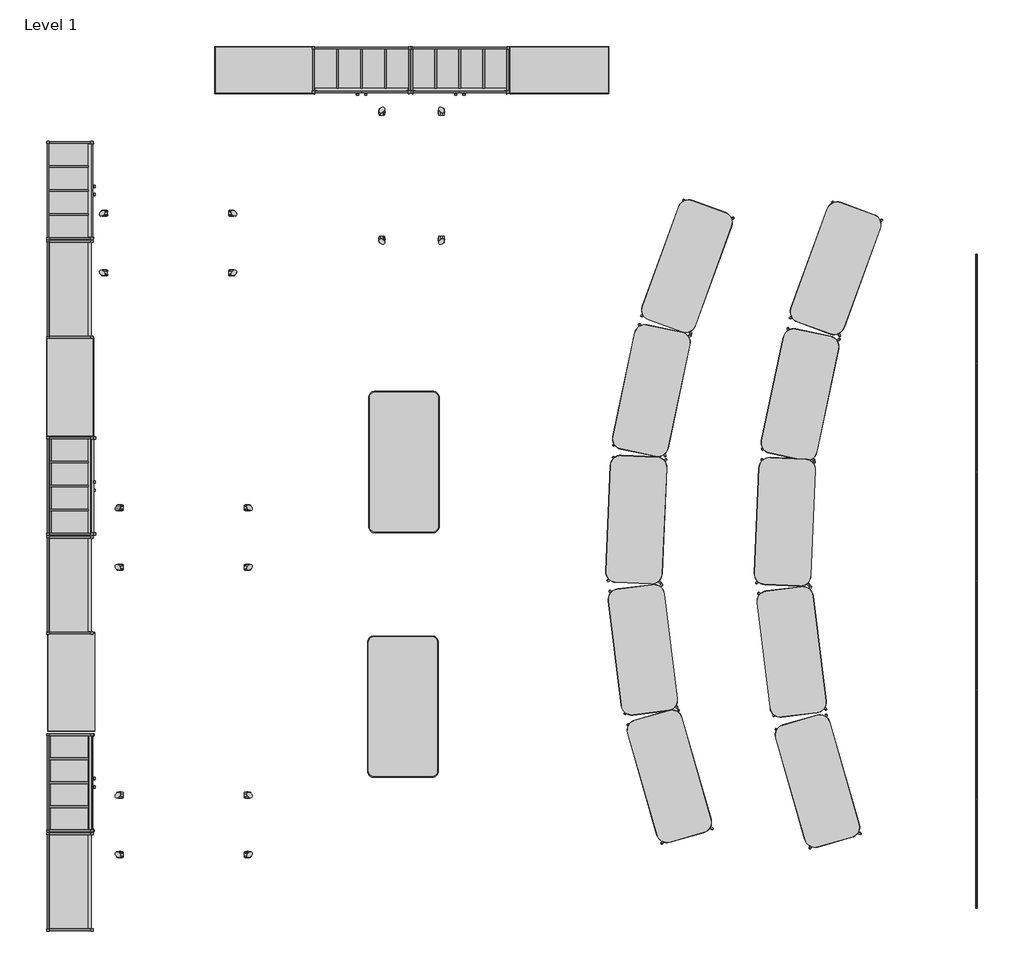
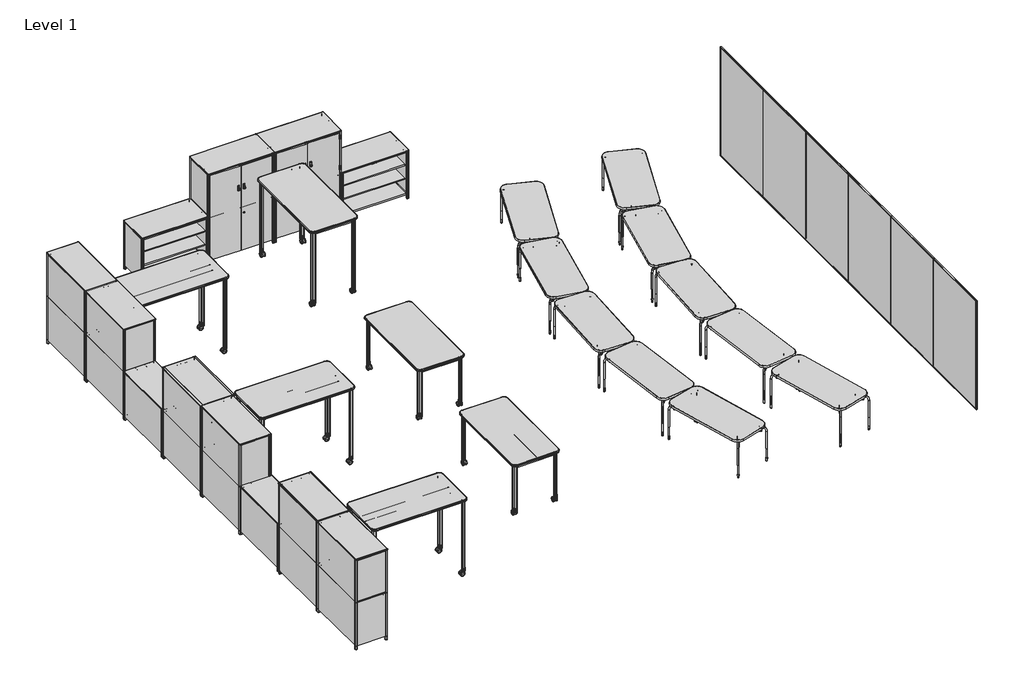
# One storey, incomplete: 116 furniture elements.
"""IFC4 building model written with IfcOpenShell, lengths in millimetres."""

from ifc_helpers import new_model, si_unit, origin, place, context, project, spatial, transform, mapped, element, save
from components import furniture_4c59b52d, furniture_afb029f8, furniture_cb7575b0, furniture_b4e8a946, furniture_8203fddc, furniture_dcc7bf50, furniture_9f49ae1a, furniture_f3f6e3e6, furniture_67cf47fb, furniture_397f0a86, furniture_30_x_60_af1b8cdd, furniture_30_x_60_d453b8d4, furniture_30_x_60_6667bd11, furniture_30_x_60_b2621e60, furniture_30_x_60_e347a391, furniture_30_x_60_a9b783f6, furniture_30_x_60_d7a7b847, furniture_30_x_60_ff9c13ed, furniture_30_x_60_9882679b, glide_271f9d47, glide_2aabda07, legs_a3c12fd3, legs_1ce2ac0b, polyvision_accessory_board_flow_vertical_5f54c6b5, polyvision_accessory_board_flow_vertical_01536e87, polyvision_accessory_board_flow_vertical_d371d4c1, with_shelves_f9349fdc, with_shelves_608da45c

model = new_model("IFC4")

# Units and contexts
model_context = context("Model", 3, world=origin())
ifc_project = project(units=[si_unit("LENGTHUNIT", "METRE", prefix="MILLI")], contexts=[model_context])

# Site, building, storey
site = spatial("IfcSite", under=ifc_project)
building = spatial("IfcBuilding", under=site)
storey = spatial("IfcBuildingStorey", under=building, Name="Level 1", Elevation=0.0)

# Furniture
placement = place(None, origin())
furniture_shape = furniture_4c59b52d(model_context)
element("IfcFurniture", 1, ObjectType="SmithSystem_AM_Desking_HeightAdjustable_Numbers_TwoStudent_Rectangle : 24″ x 54″", at=placement, inside=storey, context=model_context, shape_type="MappedRepresentation", body=[
    mapped(furniture_shape, transform((-64587.4203713, -18837.2373983, 0.0), x_axis=(-0.2756373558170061, 0.9612616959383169, 0.0), y_axis=(-0.9612616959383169, -0.2756373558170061, 0.0), z_axis=(0.0, 0.0, 1.0))),
])
element("IfcFurniture", 2, ObjectType="SmithSystem_AM_Desking_HeightAdjustable_Numbers_TwoStudent_Rectangle : 24″ x 54″", at=placement, inside=storey, context=model_context, shape_type="MappedRepresentation", body=[
    mapped(furniture_shape, transform((-65174.4982888, -15997.044759, 0.0), x_axis=(0.04318540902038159, 0.9990670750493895, 0.0), y_axis=(-0.9990670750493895, 0.04318540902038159, 0.0), z_axis=(0.0, 0.0, 1.0))),
])
element("IfcFurniture", 3, ObjectType="SmithSystem_AM_Desking_HeightAdjustable_Numbers_TwoStudent_Rectangle : 24″ x 54″", at=placement, inside=storey, context=model_context, shape_type="MappedRepresentation", body=[
    mapped(furniture_shape, transform((-64814.2098079, -13131.0771477, 0.0), x_axis=(0.34202014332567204, 0.9396926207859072, 0.0), y_axis=(-0.9396926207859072, 0.34202014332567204, 0.0), z_axis=(0.0, 0.0, 1.0))),
])
element("IfcFurniture", 4, ObjectType="SmithSystem_AM_Desking_HeightAdjustable_Numbers_TwoStudent_Rectangle : 24″ x 54″", at=placement, inside=storey, context=model_context, shape_type="MappedRepresentation", body=[
    mapped(furniture_shape, transform((-62990.1337953, -18888.9656072, 0.0), x_axis=(-0.2756373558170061, 0.9612616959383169, 0.0), y_axis=(-0.9612616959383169, -0.2756373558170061, 0.0), z_axis=(0.0, 0.0, 1.0))),
])
element("IfcFurniture", 5, ObjectType="SmithSystem_AM_Desking_HeightAdjustable_Numbers_TwoStudent_Rectangle : 24″ x 54″", at=placement, inside=storey, context=model_context, shape_type="MappedRepresentation", body=[
    mapped(furniture_shape, transform((-63570.9344481, -16020.18866, 0.0), x_axis=(0.04318540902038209, 0.9990670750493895, 0.0), y_axis=(-0.9990670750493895, 0.04318540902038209, 0.0), z_axis=(0.0, 0.0, 1.0))),
])
element("IfcFurniture", 6, ObjectType="SmithSystem_AM_Desking_HeightAdjustable_Numbers_TwoStudent_Rectangle : 24″ x 54″", at=placement, inside=storey, context=model_context, shape_type="MappedRepresentation", body=[
    mapped(furniture_shape, transform((-63210.7181849, -13153.3759359, 0.0), x_axis=(0.34202014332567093, 0.9396926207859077, 0.0), y_axis=(-0.9396926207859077, 0.34202014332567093, 0.0), z_axis=(0.0, 0.0, 1.0))),
])
furniture_2_shape = furniture_afb029f8(model_context)
element("IfcFurniture", 7, ObjectType="SmithSystem_AM_Desking_HeightAdjustable_Numbers_TwoStudent_Rectangle : 24″ x 54″", at=placement, inside=storey, context=model_context, shape_type="MappedRepresentation", body=[
    mapped(furniture_2_shape, transform((-65155.6656258, -16085.4348957, 0.0), x_axis=(0.12186934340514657, -0.9925461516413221, 0.0), y_axis=(0.9925461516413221, 0.12186934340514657, 0.0), z_axis=(0.0, 0.0, 1.0))),
])
element("IfcFurniture", 8, ObjectType="SmithSystem_AM_Desking_HeightAdjustable_Numbers_TwoStudent_Rectangle : 24″ x 54″", at=placement, inside=storey, context=model_context, shape_type="MappedRepresentation", body=[
    mapped(furniture_2_shape, transform((-64833.7138566, -13199.2334427, 0.0), x_axis=(-0.2068649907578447, -0.9783694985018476, 0.0), y_axis=(0.9783694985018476, -0.2068649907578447, 0.0), z_axis=(0.0, 0.0, 1.0))),
])
element("IfcFurniture", 9, ObjectType="SmithSystem_AM_Desking_HeightAdjustable_Numbers_TwoStudent_Rectangle : 24″ x 54″", at=placement, inside=storey, context=model_context, shape_type="MappedRepresentation", body=[
    mapped(furniture_2_shape, transform((-63550.9454867, -16108.8606283, 0.0), x_axis=(0.12186934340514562, -0.9925461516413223, 0.0), y_axis=(0.9925461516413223, 0.12186934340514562, 0.0), z_axis=(0.0, 0.0, 1.0))),
])
element("IfcFurniture", 10, ObjectType="SmithSystem_AM_Desking_HeightAdjustable_Numbers_TwoStudent_Rectangle : 24″ x 54″", at=placement, inside=storey, context=model_context, shape_type="MappedRepresentation", body=[
    mapped(furniture_2_shape, transform((-63229.4027669, -13243.3799292, 0.0), x_axis=(-0.20686499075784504, -0.9783694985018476, 0.0), y_axis=(0.9783694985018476, -0.20686499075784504, 0.0), z_axis=(0.0, 0.0, 1.0))),
])
furniture_3_shape = furniture_cb7575b0(model_context)
furniture_4_shape = furniture_b4e8a946(model_context)
furniture_5_shape = furniture_8203fddc(model_context)
element("IfcFurniture", 11, ObjectType="SmithSystem_AM_Storage_Education_Constellate_Stacking_DoubleMidCluster : Upper Cubbies + Lower Cubbies", at=placement, inside=storey, context=model_context, shape_type="MappedRepresentation", body=[
    mapped(furniture_3_shape, transform((-66743.5566691, -10475.9766062, 0.0), x_axis=(1.0, 0.0, 0.0), y_axis=(0.0, 1.0, 0.0), z_axis=(0.0, 0.0, 1.0))),
    mapped(furniture_4_shape, transform((-66743.5566691, -10475.9766062, 0.0), x_axis=(1.0, 0.0, 0.0), y_axis=(0.0, 1.0, 0.0), z_axis=(0.0, 0.0, 1.0))),
    mapped(furniture_5_shape, transform((-66743.5566691, -10475.9766062, 0.0), x_axis=(1.0, 0.0, 0.0), y_axis=(0.0, 1.0, 0.0), z_axis=(0.0, 0.0, 1.0))),
])
element("IfcFurniture", 12, ObjectType="SmithSystem_AM_Storage_Education_Constellate_Stacking_DoubleMidCluster : Upper Cubbies + Lower Cubbies", at=placement, inside=storey, context=model_context, shape_type="MappedRepresentation", body=[
    mapped(furniture_3_shape, transform((-67803.5639286, -10475.9766062, 0.0), x_axis=(1.0, 0.0, 0.0), y_axis=(0.0, 1.0, 0.0), z_axis=(0.0, 0.0, 1.0))),
    mapped(furniture_4_shape, transform((-67803.5639286, -10475.9766062, 0.0), x_axis=(1.0, 0.0, 0.0), y_axis=(0.0, 1.0, 0.0), z_axis=(0.0, 0.0, 1.0))),
    mapped(furniture_5_shape, transform((-67803.5639286, -10475.9766062, 0.0), x_axis=(1.0, 0.0, 0.0), y_axis=(0.0, 1.0, 0.0), z_axis=(0.0, 0.0, 1.0))),
])
furniture_6_shape = furniture_dcc7bf50(model_context)
furniture_7_shape = furniture_9f49ae1a(model_context)
element("IfcFurniture", 13, ObjectType="SmithSystem_AM_Storage_Education_Constellate_Stacking_DoubleMidCluster : Upper Shelves + Lower Cubbies", at=placement, inside=storey, context=model_context, shape_type="MappedRepresentation", body=[
    mapped(furniture_6_shape, transform((-70947.7663273, -12840.3664028, 0.0), x_axis=(0.0, 1.0, 0.0), y_axis=(-1.0, 0.0, 0.0), z_axis=(0.0, 0.0, 1.0))),
    mapped(furniture_7_shape, transform((-70947.7663273, -12840.3664028, 0.0), x_axis=(0.0, 1.0, 0.0), y_axis=(-1.0, 0.0, 0.0), z_axis=(0.0, 0.0, 1.0))),
])
element("IfcFurniture", 14, ObjectType="SmithSystem_AM_Storage_Education_Constellate_Stacking_DoubleMidCluster : Upper Shelves + Lower Cubbies", at=placement, inside=storey, context=model_context, shape_type="MappedRepresentation", body=[
    mapped(furniture_6_shape, transform((-70920.1972134, -14963.1977184, 0.0), x_axis=(0.0, 1.0, 0.0), y_axis=(-1.0, 0.0, 0.0), z_axis=(0.0, 0.0, 1.0))),
    mapped(furniture_7_shape, transform((-70920.1972134, -14963.1977184, 0.0), x_axis=(0.0, 1.0, 0.0), y_axis=(-1.0, 0.0, 0.0), z_axis=(0.0, 0.0, 1.0))),
])
element("IfcFurniture", 15, ObjectType="SmithSystem_AM_Storage_Education_Constellate_Stacking_DoubleMidCluster : Upper Shelves + Lower Cubbies", at=placement, inside=storey, context=model_context, shape_type="MappedRepresentation", body=[
    mapped(furniture_6_shape, transform((-70935.5896199, -18163.5977184, 0.0), x_axis=(0.0, 1.0, 0.0), y_axis=(-1.0, 0.0, 0.0), z_axis=(0.0, 0.0, 1.0))),
    mapped(furniture_7_shape, transform((-70935.5896199, -18163.5977184, 0.0), x_axis=(0.0, 1.0, 0.0), y_axis=(-1.0, 0.0, 0.0), z_axis=(0.0, 0.0, 1.0))),
])
element("IfcFurniture", 16, ObjectType="SmithSystem_AM_Storage_Education_Constellate_Stacking_DoubleMidCluster : Upper Shelves + Lower Cubbies", at=placement, inside=storey, context=model_context, shape_type="MappedRepresentation", body=[
    mapped(furniture_6_shape, transform((-70947.7663273, -16031.7952256, 0.0), x_axis=(0.0, 1.0, 0.0), y_axis=(-1.0, 0.0, 0.0), z_axis=(0.0, 0.0, 1.0))),
    mapped(furniture_7_shape, transform((-70947.7663273, -16031.7952256, 0.0), x_axis=(0.0, 1.0, 0.0), y_axis=(-1.0, 0.0, 0.0), z_axis=(0.0, 0.0, 1.0))),
])
element("IfcFurniture", 17, ObjectType="SmithSystem_AM_Storage_Education_Constellate_Stacking_DoubleMidCluster : Upper Shelves + Lower Cubbies", at=placement, inside=storey, context=model_context, shape_type="MappedRepresentation", body=[
    mapped(furniture_6_shape, transform((-70947.7663273, -19232.1952256, 0.0), x_axis=(0.0, 1.0, 0.0), y_axis=(-1.0, 0.0, 0.0), z_axis=(0.0, 0.0, 1.0))),
    mapped(furniture_7_shape, transform((-70947.7663273, -19232.1952256, 0.0), x_axis=(0.0, 1.0, 0.0), y_axis=(-1.0, 0.0, 0.0), z_axis=(0.0, 0.0, 1.0))),
])
furniture_8_shape = furniture_f3f6e3e6(model_context)
furniture_9_shape = furniture_67cf47fb(model_context)
furniture_10_shape = furniture_397f0a86(model_context)
element("IfcFurniture", 18, ObjectType="SmithSystem_AM_Storage_Education_Constellate_Stacking_DoubleMidCluster : Upper Cubbies + Lower Cubbies", at=placement, inside=storey, context=model_context, shape_type="MappedRepresentation", body=[
    mapped(furniture_8_shape, transform((-70947.7663273, -11774.8168957, 0.0), x_axis=(0.0, 1.0, 0.0), y_axis=(-1.0, 0.0, 0.0), z_axis=(0.0, 0.0, 1.0))),
    mapped(furniture_9_shape, transform((-70947.7663273, -11774.8168957, 0.0), x_axis=(0.0, 1.0, 0.0), y_axis=(-1.0, 0.0, 0.0), z_axis=(0.0, 0.0, 1.0))),
    mapped(furniture_10_shape, transform((-70947.7663273, -11774.8168957, 0.0), x_axis=(0.0, 1.0, 0.0), y_axis=(-1.0, 0.0, 0.0), z_axis=(0.0, 0.0, 1.0))),
])
element("IfcFurniture", 19, ObjectType="SmithSystem_AM_Storage_Education_Constellate_Stacking_DoubleMidCluster : Upper Cubbies + Lower Cubbies", at=placement, inside=storey, context=model_context, shape_type="MappedRepresentation", body=[
    mapped(furniture_8_shape, transform((-70947.7663273, -14963.1977184, 0.0), x_axis=(0.0, 1.0, 0.0), y_axis=(-1.0, 0.0, 0.0), z_axis=(0.0, 0.0, 1.0))),
    mapped(furniture_9_shape, transform((-70947.7663273, -14963.1977184, 0.0), x_axis=(0.0, 1.0, 0.0), y_axis=(-1.0, 0.0, 0.0), z_axis=(0.0, 0.0, 1.0))),
    mapped(furniture_10_shape, transform((-70947.7663273, -14963.1977184, 0.0), x_axis=(0.0, 1.0, 0.0), y_axis=(-1.0, 0.0, 0.0), z_axis=(0.0, 0.0, 1.0))),
])
element("IfcFurniture", 20, ObjectType="SmithSystem_AM_Storage_Education_Constellate_Stacking_DoubleMidCluster : Upper Cubbies + Lower Cubbies", at=placement, inside=storey, context=model_context, shape_type="MappedRepresentation", body=[
    mapped(furniture_8_shape, transform((-70947.7663273, -18163.5977184, 0.0), x_axis=(0.0, 1.0, 0.0), y_axis=(-1.0, 0.0, 0.0), z_axis=(0.0, 0.0, 1.0))),
    mapped(furniture_9_shape, transform((-70947.7663273, -18163.5977184, 0.0), x_axis=(0.0, 1.0, 0.0), y_axis=(-1.0, 0.0, 0.0), z_axis=(0.0, 0.0, 1.0))),
    mapped(furniture_10_shape, transform((-70947.7663273, -18163.5977184, 0.0), x_axis=(0.0, 1.0, 0.0), y_axis=(-1.0, 0.0, 0.0), z_axis=(0.0, 0.0, 1.0))),
])
furniture_30_x_60_shape = furniture_30_x_60_af1b8cdd(model_context)
furniture_30_x_60_2_shape = furniture_30_x_60_d453b8d4(model_context)
furniture_30_x_60_3_shape = furniture_30_x_60_6667bd11(model_context)
element("IfcFurniture", 21, ObjectType="SmithSystem_AM_Desking_Education_Interchange_Student_Activity : 30 x 60", at=placement, inside=storey, context=model_context, shape_type="MappedRepresentation", body=[
    mapped(furniture_30_x_60_shape, transform((-66976.4716781, -18104.614247, 0.0), x_axis=(0.0, 1.0, 0.0), y_axis=(-1.0, 0.0, 0.0), z_axis=(0.0, 0.0, 1.0))),
    mapped(furniture_30_x_60_2_shape, transform((-66976.4716781, -18104.614247, 0.0), x_axis=(0.0, 1.0, 0.0), y_axis=(-1.0, 0.0, 0.0), z_axis=(0.0, 0.0, 1.0))),
    mapped(furniture_30_x_60_3_shape, transform((-66976.4716781, -18104.614247, 0.0), x_axis=(0.0, 1.0, 0.0), y_axis=(-1.0, 0.0, 0.0), z_axis=(0.0, 0.0, 1.0))),
])
furniture_30_x_60_4_shape = furniture_30_x_60_b2621e60(model_context)
furniture_30_x_60_5_shape = furniture_30_x_60_e347a391(model_context)
furniture_30_x_60_6_shape = furniture_30_x_60_a9b783f6(model_context)
element("IfcFurniture", 22, ObjectType="SmithSystem_AM_Desking_Education_Interchange_Student_Activity : 30 x 60", at=placement, inside=storey, context=model_context, shape_type="MappedRepresentation", body=[
    mapped(furniture_30_x_60_4_shape, transform((-66965.9842108, -13941.7920666, 0.0), x_axis=(0.0, -1.0, 0.0), y_axis=(1.0, 0.0, 0.0), z_axis=(0.0, 0.0, 1.0))),
    mapped(furniture_30_x_60_5_shape, transform((-66965.9842108, -13941.7920666, 0.0), x_axis=(0.0, -1.0, 0.0), y_axis=(1.0, 0.0, 0.0), z_axis=(0.0, 0.0, 1.0))),
    mapped(furniture_30_x_60_6_shape, transform((-66965.9842108, -13941.7920666, 0.0), x_axis=(0.0, -1.0, 0.0), y_axis=(1.0, 0.0, 0.0), z_axis=(0.0, 0.0, 1.0))),
])
furniture_30_x_60_7_shape = furniture_30_x_60_d7a7b847(model_context)
furniture_30_x_60_8_shape = furniture_30_x_60_ff9c13ed(model_context)
furniture_30_x_60_9_shape = furniture_30_x_60_9882679b(model_context)
element("IfcFurniture", 23, ObjectType="SmithSystem_AM_Desking_Education_Interchange_Student_Activity : 30 x 60", at=placement, inside=storey, context=model_context, shape_type="MappedRepresentation", body=[
    mapped(furniture_30_x_60_7_shape, transform((-66881.7756395, -12377.4201856, 0.0), x_axis=(0.0, 1.0, 0.0), y_axis=(-1.0, 0.0, 0.0), z_axis=(0.0, 0.0, 1.0))),
    mapped(furniture_30_x_60_8_shape, transform((-66881.7756395, -12377.4201856, 0.0), x_axis=(0.0, 1.0, 0.0), y_axis=(-1.0, 0.0, 0.0), z_axis=(0.0, 0.0, 1.0))),
    mapped(furniture_30_x_60_9_shape, transform((-66881.7756395, -12377.4201856, 0.0), x_axis=(0.0, 1.0, 0.0), y_axis=(-1.0, 0.0, 0.0), z_axis=(0.0, 0.0, 1.0))),
])
element("IfcFurniture", 24, ObjectType="SmithSystem_AM_Desking_Education_Interchange_Student_Activity : 30 x 60", at=placement, inside=storey, context=model_context, shape_type="MappedRepresentation", body=[
    mapped(furniture_30_x_60_7_shape, transform((-69129.3532755, -11960.6939298, 0.0), x_axis=(-1.0, 0.0, 0.0), y_axis=(0.0, -1.0, 0.0), z_axis=(0.0, 0.0, 1.0))),
    mapped(furniture_30_x_60_8_shape, transform((-69129.3532755, -11960.6939298, 0.0), x_axis=(-1.0, 0.0, 0.0), y_axis=(0.0, -1.0, 0.0), z_axis=(0.0, 0.0, 1.0))),
    mapped(furniture_30_x_60_9_shape, transform((-69129.3532755, -11960.6939298, 0.0), x_axis=(-1.0, 0.0, 0.0), y_axis=(0.0, -1.0, 0.0), z_axis=(0.0, 0.0, 1.0))),
])
element("IfcFurniture", 25, ObjectType="SmithSystem_AM_Desking_Education_Interchange_Student_Activity : 30 x 60", at=placement, inside=storey, context=model_context, shape_type="MappedRepresentation", body=[
    mapped(furniture_30_x_60_7_shape, transform((-68960.1953392, -15137.6196346, 0.0), x_axis=(-1.0, 0.0, 0.0), y_axis=(0.0, -1.0, 0.0), z_axis=(0.0, 0.0, 1.0))),
    mapped(furniture_30_x_60_8_shape, transform((-68960.1953392, -15137.6196346, 0.0), x_axis=(-1.0, 0.0, 0.0), y_axis=(0.0, -1.0, 0.0), z_axis=(0.0, 0.0, 1.0))),
    mapped(furniture_30_x_60_9_shape, transform((-68960.1953392, -15137.6196346, 0.0), x_axis=(-1.0, 0.0, 0.0), y_axis=(0.0, -1.0, 0.0), z_axis=(0.0, 0.0, 1.0))),
])
element("IfcFurniture", 26, ObjectType="SmithSystem_AM_Desking_Education_Interchange_Student_Activity : 30 x 60", at=placement, inside=storey, context=model_context, shape_type="MappedRepresentation", body=[
    mapped(furniture_30_x_60_7_shape, transform((-68960.1953392, -18236.4196346, 0.0), x_axis=(-1.0, 0.0, 0.0), y_axis=(0.0, -1.0, 0.0), z_axis=(0.0, 0.0, 1.0))),
    mapped(furniture_30_x_60_8_shape, transform((-68960.1953392, -18236.4196346, 0.0), x_axis=(-1.0, 0.0, 0.0), y_axis=(0.0, -1.0, 0.0), z_axis=(0.0, 0.0, 1.0))),
    mapped(furniture_30_x_60_9_shape, transform((-68960.1953392, -18236.4196346, 0.0), x_axis=(-1.0, 0.0, 0.0), y_axis=(0.0, -1.0, 0.0), z_axis=(0.0, 0.0, 1.0))),
])
glide_shape = glide_271f9d47(model_context)
element("IfcFurniture", 27, ObjectType="SmithSystem_AM_Accesory_Numbers_Casters : Glide", at=placement, inside=storey, context=model_context, shape_type="MappedRepresentation", body=[
    mapped(glide_shape, transform((-64560.189677, -18828.0496828, 0.0), x_axis=(-0.9612616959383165, -0.2756373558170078, 0.0), y_axis=(0.2756373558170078, -0.9612616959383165, 0.0), z_axis=(0.0, 0.0, 1.0))),
])
element("IfcFurniture", 28, ObjectType="SmithSystem_AM_Accesory_Numbers_Casters : Glide", at=placement, inside=storey, context=model_context, shape_type="MappedRepresentation", body=[
    mapped(glide_shape, transform((-64389.785166, -17368.1936065, 0.0), x_axis=(0.9612616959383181, 0.2756373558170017, 0.0), y_axis=(-0.2756373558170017, 0.9612616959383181, 0.0), z_axis=(0.0, 0.0, 1.0))),
])
element("IfcFurniture", 29, ObjectType="SmithSystem_AM_Accesory_Numbers_Casters : Glide", at=placement, inside=storey, context=model_context, shape_type="MappedRepresentation", body=[
    mapped(glide_shape, transform((-64961.4703099, -17429.4463792, 0.0), x_axis=(-0.9925461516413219, -0.12186934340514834, 0.0), y_axis=(0.12186934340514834, -0.9925461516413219, 0.0), z_axis=(0.0, 0.0, 1.0))),
])
element("IfcFurniture", 30, ObjectType="SmithSystem_AM_Accesory_Numbers_Casters : Glide", at=placement, inside=storey, context=model_context, shape_type="MappedRepresentation", body=[
    mapped(glide_shape, transform((-64565.8236743, -16014.3473712, 0.0), x_axis=(0.9925461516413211, 0.12186934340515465, 0.0), y_axis=(-0.12186934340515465, 0.9925461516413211, 0.0), z_axis=(0.0, 0.0, 1.0))),
])
element("IfcFurniture", 31, ObjectType="SmithSystem_AM_Accesory_Numbers_Casters : Glide", at=placement, inside=storey, context=model_context, shape_type="MappedRepresentation", body=[
    mapped(glide_shape, transform((-65145.7595065, -15996.9597733, 0.0), x_axis=(-0.9990670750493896, 0.04318540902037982, 0.0), y_axis=(-0.04318540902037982, -0.9990670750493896, 0.0), z_axis=(0.0, 0.0, 1.0))),
])
element("IfcFurniture", 32, ObjectType="SmithSystem_AM_Accesory_Numbers_Casters : Glide", at=placement, inside=storey, context=model_context, shape_type="MappedRepresentation", body=[
    mapped(glide_shape, transform((-64521.5196919, -14666.3425802, 0.0), x_axis=(0.9990670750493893, -0.04318540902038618, 0.0), y_axis=(0.04318540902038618, 0.9990670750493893, 0.0), z_axis=(0.0, 0.0, 1.0))),
])
element("IfcFurniture", 33, ObjectType="SmithSystem_AM_Accesory_Numbers_Casters : Glide", at=placement, inside=storey, context=model_context, shape_type="MappedRepresentation", body=[
    mapped(glide_shape, transform((-65086.2384289, -14533.5160323, 0.0), x_axis=(-0.978369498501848, 0.20686499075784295, 0.0), y_axis=(-0.20686499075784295, -0.978369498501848, 0.0), z_axis=(0.0, 0.0, 1.0))),
])
element("IfcFurniture", 34, ObjectType="SmithSystem_AM_Accesory_Numbers_Casters : Glide", at=placement, inside=storey, context=model_context, shape_type="MappedRepresentation", body=[
    mapped(glide_shape, transform((-64252.7302813, -13323.4310639, 0.0), x_axis=(0.9783694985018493, -0.20686499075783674, 0.0), y_axis=(0.20686499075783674, 0.9783694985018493, 0.0), z_axis=(0.0, 0.0, 1.0))),
])
element("IfcFurniture", 35, ObjectType="SmithSystem_AM_Accesory_Numbers_Casters : Glide", at=placement, inside=storey, context=model_context, shape_type="MappedRepresentation", body=[
    mapped(glide_shape, transform((-64786.7793097, -13139.6499302, 0.0), x_axis=(-0.9396926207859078, 0.3420201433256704, 0.0), y_axis=(-0.3420201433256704, -0.9396926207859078, 0.0), z_axis=(0.0, 0.0, 1.0))),
])
element("IfcFurniture", 36, ObjectType="SmithSystem_AM_Accesory_Numbers_Casters : Glide", at=placement, inside=storey, context=model_context, shape_type="MappedRepresentation", body=[
    mapped(glide_shape, transform((-63790.8372923, -12058.7628136, 0.0), x_axis=(0.9396926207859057, -0.3420201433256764, 0.0), y_axis=(0.3420201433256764, 0.9396926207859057, 0.0), z_axis=(0.0, 0.0, 1.0))),
])
element("IfcFurniture", 37, ObjectType="SmithSystem_AM_Accesory_Numbers_Casters : Glide", at=placement, inside=storey, context=model_context, shape_type="MappedRepresentation", body=[
    mapped(glide_shape, transform((-62962.9031011, -18879.7778917, 0.0), x_axis=(-0.9612616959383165, -0.2756373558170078, 0.0), y_axis=(0.2756373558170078, -0.9612616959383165, 0.0), z_axis=(0.0, 0.0, 1.0))),
])
element("IfcFurniture", 38, ObjectType="SmithSystem_AM_Accesory_Numbers_Casters : Glide", at=placement, inside=storey, context=model_context, shape_type="MappedRepresentation", body=[
    mapped(glide_shape, transform((-62792.4985901, -17419.9218154, 0.0), x_axis=(0.9612616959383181, 0.2756373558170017, 0.0), y_axis=(-0.2756373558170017, 0.9612616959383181, 0.0), z_axis=(0.0, 0.0, 1.0))),
])
element("IfcFurniture", 39, ObjectType="SmithSystem_AM_Accesory_Numbers_Casters : Glide", at=placement, inside=storey, context=model_context, shape_type="MappedRepresentation", body=[
    mapped(glide_shape, transform((-63356.7501708, -17452.8721118, 0.0), x_axis=(-0.9925461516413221, -0.12186934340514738, 0.0), y_axis=(0.12186934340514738, -0.9925461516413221, 0.0), z_axis=(0.0, 0.0, 1.0))),
])
element("IfcFurniture", 40, ObjectType="SmithSystem_AM_Accesory_Numbers_Casters : Glide", at=placement, inside=storey, context=model_context, shape_type="MappedRepresentation", body=[
    mapped(glide_shape, transform((-62961.1035352, -16037.7731038, 0.0), x_axis=(0.9925461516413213, 0.1218693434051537, 0.0), y_axis=(-0.1218693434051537, 0.9925461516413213, 0.0), z_axis=(0.0, 0.0, 1.0))),
])
element("IfcFurniture", 41, ObjectType="SmithSystem_AM_Accesory_Numbers_Casters : Glide", at=placement, inside=storey, context=model_context, shape_type="MappedRepresentation", body=[
    mapped(glide_shape, transform((-63542.1956658, -16020.1036743, 0.0), x_axis=(-0.9990670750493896, 0.043185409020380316, 0.0), y_axis=(-0.043185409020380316, -0.9990670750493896, 0.0), z_axis=(0.0, 0.0, 1.0))),
])
element("IfcFurniture", 42, ObjectType="SmithSystem_AM_Accesory_Numbers_Casters : Glide", at=placement, inside=storey, context=model_context, shape_type="MappedRepresentation", body=[
    mapped(glide_shape, transform((-62917.9558512, -14689.4864812, 0.0), x_axis=(0.9990670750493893, -0.04318540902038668, 0.0), y_axis=(0.04318540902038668, 0.9990670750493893, 0.0), z_axis=(0.0, 0.0, 1.0))),
])
element("IfcFurniture", 43, ObjectType="SmithSystem_AM_Accesory_Numbers_Casters : Glide", at=placement, inside=storey, context=model_context, shape_type="MappedRepresentation", body=[
    mapped(glide_shape, transform((-63481.9273393, -14577.6625188, 0.0), x_axis=(-0.978369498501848, 0.2068649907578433, 0.0), y_axis=(-0.2068649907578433, -0.978369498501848, 0.0), z_axis=(0.0, 0.0, 1.0))),
])
element("IfcFurniture", 44, ObjectType="SmithSystem_AM_Accesory_Numbers_Casters : Glide", at=placement, inside=storey, context=model_context, shape_type="MappedRepresentation", body=[
    mapped(glide_shape, transform((-62648.4191917, -13367.5775504, 0.0), x_axis=(0.9783694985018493, -0.20686499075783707, 0.0), y_axis=(0.20686499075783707, 0.9783694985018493, 0.0), z_axis=(0.0, 0.0, 1.0))),
])
element("IfcFurniture", 45, ObjectType="SmithSystem_AM_Accesory_Numbers_Casters : Glide", at=placement, inside=storey, context=model_context, shape_type="MappedRepresentation", body=[
    mapped(glide_shape, transform((-63183.2876868, -13161.9487184, 0.0), x_axis=(-0.9396926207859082, 0.34202014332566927, 0.0), y_axis=(-0.34202014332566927, -0.9396926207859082, 0.0), z_axis=(0.0, 0.0, 1.0))),
])
element("IfcFurniture", 46, ObjectType="SmithSystem_AM_Accesory_Numbers_Casters : Glide", at=placement, inside=storey, context=model_context, shape_type="MappedRepresentation", body=[
    mapped(glide_shape, transform((-62187.3456693, -12081.0616018, 0.0), x_axis=(0.9396926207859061, -0.34202014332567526, 0.0), y_axis=(0.34202014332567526, 0.9396926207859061, 0.0), z_axis=(0.0, 0.0, 1.0))),
])
glide_2_shape = glide_2aabda07(model_context)
element("IfcFurniture", 47, ObjectType="SmithSystem_AM_Accesory_Numbers_Casters : Glide", at=placement, inside=storey, context=model_context, shape_type="MappedRepresentation", body=[
    mapped(glide_2_shape, transform((-64933.8097642, -17524.1901497, 0.0), x_axis=(-0.9612616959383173, -0.2756373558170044, 0.0), y_axis=(0.2756373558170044, -0.9612616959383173, 0.0), z_axis=(0.0, 0.0, 1.0))),
])
element("IfcFurniture", 48, ObjectType="SmithSystem_AM_Accesory_Numbers_Casters : Glide", at=placement, inside=storey, context=model_context, shape_type="MappedRepresentation", body=[
    mapped(glide_2_shape, transform((-64016.6918835, -18672.2041983, 0.0), x_axis=(0.9612616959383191, 0.2756373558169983, 0.0), y_axis=(-0.2756373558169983, 0.9612616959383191, 0.0), z_axis=(0.0, 0.0, 1.0))),
])
element("IfcFurniture", 49, ObjectType="SmithSystem_AM_Accesory_Numbers_Casters : Glide", at=placement, inside=storey, context=model_context, shape_type="MappedRepresentation", body=[
    mapped(glide_2_shape, transform((-65127.0097131, -16083.2523526, 0.0), x_axis=(-0.9925461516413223, -0.12186934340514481, 0.0), y_axis=(0.12186934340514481, -0.9925461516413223, 0.0), z_axis=(0.0, 0.0, 1.0))),
])
element("IfcFurniture", 50, ObjectType="SmithSystem_AM_Accesory_Numbers_Casters : Glide", at=placement, inside=storey, context=model_context, shape_type="MappedRepresentation", body=[
    mapped(glide_2_shape, transform((-64399.7403215, -17360.4746093, 0.0), x_axis=(0.9925461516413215, 0.12186934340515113, 0.0), y_axis=(-0.12186934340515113, 0.9925461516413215, 0.0), z_axis=(0.0, 0.0, 1.0))),
])
element("IfcFurniture", 51, ObjectType="SmithSystem_AM_Accesory_Numbers_Casters : Glide", at=placement, inside=storey, context=model_context, shape_type="MappedRepresentation", body=[
    mapped(glide_2_shape, transform((-65086.940187, -14641.9018635, 0.0), x_axis=(-0.9990670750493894, 0.04318540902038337, 0.0), y_axis=(-0.04318540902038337, -0.9990670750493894, 0.0), z_axis=(0.0, 0.0, 1.0))),
])
element("IfcFurniture", 52, ObjectType="SmithSystem_AM_Accesory_Numbers_Casters : Glide", at=placement, inside=storey, context=model_context, shape_type="MappedRepresentation", body=[
    mapped(glide_2_shape, transform((-64580.8865347, -16021.3768229, 0.0), x_axis=(0.9990670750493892, -0.04318540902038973, 0.0), y_axis=(0.04318540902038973, 0.9990670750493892, 0.0), z_axis=(0.0, 0.0, 1.0))),
])
element("IfcFurniture", 53, ObjectType="SmithSystem_AM_Accesory_Numbers_Casters : Glide", at=placement, inside=storey, context=model_context, shape_type="MappedRepresentation", body=[
    mapped(glide_2_shape, transform((-64805.9008341, -13206.4695055, 0.0), x_axis=(-0.9783694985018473, 0.20686499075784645, 0.0), y_axis=(-0.20686499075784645, -0.9783694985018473, 0.0), z_axis=(0.0, 0.0, 1.0))),
])
element("IfcFurniture", 54, ObjectType="SmithSystem_AM_Accesory_Numbers_Casters : Glide", at=placement, inside=storey, context=model_context, shape_type="MappedRepresentation", body=[
    mapped(glide_2_shape, transform((-64532.5316959, -14650.5909599, 0.0), x_axis=(0.9783694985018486, -0.2068649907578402, 0.0), y_axis=(0.2068649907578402, 0.9783694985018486, 0.0), z_axis=(0.0, 0.0, 1.0))),
])
element("IfcFurniture", 55, ObjectType="SmithSystem_AM_Accesory_Numbers_Casters : Glide", at=placement, inside=storey, context=model_context, shape_type="MappedRepresentation", body=[
    mapped(glide_2_shape, transform((-64322.6549051, -11865.1970325, 0.0), x_axis=(-0.9396926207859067, 0.3420201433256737, 0.0), y_axis=(-0.3420201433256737, -0.9396926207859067, 0.0), z_axis=(0.0, 0.0, 1.0))),
])
element("IfcFurniture", 56, ObjectType="SmithSystem_AM_Accesory_Numbers_Casters : Glide", at=placement, inside=storey, context=model_context, shape_type="MappedRepresentation", body=[
    mapped(glide_2_shape, transform((-64255.476681, -13333.0282725, 0.0), x_axis=(0.9396926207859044, -0.3420201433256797, 0.0), y_axis=(0.3420201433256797, 0.9396926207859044, 0.0), z_axis=(0.0, 0.0, 1.0))),
])
element("IfcFurniture", 57, ObjectType="SmithSystem_AM_Accesory_Numbers_Casters : Glide", at=placement, inside=storey, context=model_context, shape_type="MappedRepresentation", body=[
    mapped(glide_2_shape, transform((-63336.5231882, -17575.9183586, 0.0), x_axis=(-0.9612616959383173, -0.2756373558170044, 0.0), y_axis=(0.2756373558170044, -0.9612616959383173, 0.0), z_axis=(0.0, 0.0, 1.0))),
])
element("IfcFurniture", 58, ObjectType="SmithSystem_AM_Accesory_Numbers_Casters : Glide", at=placement, inside=storey, context=model_context, shape_type="MappedRepresentation", body=[
    mapped(glide_2_shape, transform((-62419.4053075, -18723.9324072, 0.0), x_axis=(0.9612616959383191, 0.2756373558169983, 0.0), y_axis=(-0.2756373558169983, 0.9612616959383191, 0.0), z_axis=(0.0, 0.0, 1.0))),
])
element("IfcFurniture", 59, ObjectType="SmithSystem_AM_Accesory_Numbers_Casters : Glide", at=placement, inside=storey, context=model_context, shape_type="MappedRepresentation", body=[
    mapped(glide_2_shape, transform((-63522.289574, -16106.6780852, 0.0), x_axis=(-0.9925461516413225, -0.12186934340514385, 0.0), y_axis=(0.12186934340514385, -0.9925461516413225, 0.0), z_axis=(0.0, 0.0, 1.0))),
])
element("IfcFurniture", 60, ObjectType="SmithSystem_AM_Accesory_Numbers_Casters : Glide", at=placement, inside=storey, context=model_context, shape_type="MappedRepresentation", body=[
    mapped(glide_2_shape, transform((-62795.0201824, -17383.9003419, 0.0), x_axis=(0.9925461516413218, 0.12186934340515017, 0.0), y_axis=(-0.12186934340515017, 0.9925461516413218, 0.0), z_axis=(0.0, 0.0, 1.0))),
])
element("IfcFurniture", 61, ObjectType="SmithSystem_AM_Accesory_Numbers_Casters : Glide", at=placement, inside=storey, context=model_context, shape_type="MappedRepresentation", body=[
    mapped(glide_2_shape, transform((-63483.3763463, -14665.0457645, 0.0), x_axis=(-0.9990670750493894, 0.04318540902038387, 0.0), y_axis=(-0.04318540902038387, -0.9990670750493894, 0.0), z_axis=(0.0, 0.0, 1.0))),
])
element("IfcFurniture", 62, ObjectType="SmithSystem_AM_Accesory_Numbers_Casters : Glide", at=placement, inside=storey, context=model_context, shape_type="MappedRepresentation", body=[
    mapped(glide_2_shape, transform((-62977.322694, -16044.5207239, 0.0), x_axis=(0.9990670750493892, -0.04318540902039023, 0.0), y_axis=(0.04318540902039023, 0.9990670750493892, 0.0), z_axis=(0.0, 0.0, 1.0))),
])
element("IfcFurniture", 63, ObjectType="SmithSystem_AM_Accesory_Numbers_Casters : Glide", at=placement, inside=storey, context=model_context, shape_type="MappedRepresentation", body=[
    mapped(glide_2_shape, transform((-63201.5897444, -13250.6159919, 0.0), x_axis=(-0.9783694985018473, 0.20686499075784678, 0.0), y_axis=(-0.20686499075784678, -0.9783694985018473, 0.0), z_axis=(0.0, 0.0, 1.0))),
])
element("IfcFurniture", 64, ObjectType="SmithSystem_AM_Accesory_Numbers_Casters : Glide", at=placement, inside=storey, context=model_context, shape_type="MappedRepresentation", body=[
    mapped(glide_2_shape, transform((-62928.2206062, -14694.7374464, 0.0), x_axis=(0.9783694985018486, -0.20686499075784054, 0.0), y_axis=(0.20686499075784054, 0.9783694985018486, 0.0), z_axis=(0.0, 0.0, 1.0))),
])
element("IfcFurniture", 65, ObjectType="SmithSystem_AM_Accesory_Numbers_Casters : Glide", at=placement, inside=storey, context=model_context, shape_type="MappedRepresentation", body=[
    mapped(glide_2_shape, transform((-62719.1632821, -11887.4958207, 0.0), x_axis=(-0.9396926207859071, 0.3420201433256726, 0.0), y_axis=(-0.3420201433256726, -0.9396926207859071, 0.0), z_axis=(0.0, 0.0, 1.0))),
])
element("IfcFurniture", 66, ObjectType="SmithSystem_AM_Accesory_Numbers_Casters : Glide", at=placement, inside=storey, context=model_context, shape_type="MappedRepresentation", body=[
    mapped(glide_2_shape, transform((-62651.985058, -13355.3270607, 0.0), x_axis=(0.9396926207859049, -0.3420201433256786, 0.0), y_axis=(0.3420201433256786, 0.9396926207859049, 0.0), z_axis=(0.0, 0.0, 1.0))),
])
legs_shape = legs_a3c12fd3(model_context)
element("IfcFurniture", 67, ObjectType="SmithSystem_AM_Numbers_Legs : Legs", at=placement, inside=storey, context=model_context, shape_type="MappedRepresentation", body=[
    mapped(legs_shape, transform((-64563.6091535, -18816.1245513, 0.0), x_axis=(-0.2756373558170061, 0.9612616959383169, 0.0), y_axis=(-0.9612616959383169, -0.2756373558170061, 0.0), z_axis=(0.0, 0.0, 1.0))),
])
element("IfcFurniture", 68, ObjectType="SmithSystem_AM_Numbers_Legs : Legs", at=placement, inside=storey, context=model_context, shape_type="MappedRepresentation", body=[
    mapped(legs_shape, transform((-64386.4575364, -17380.2344195, 0.0), x_axis=(0.2756373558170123, -0.9612616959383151, 0.0), y_axis=(0.9612616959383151, 0.2756373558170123, 0.0), z_axis=(0.0, 0.0, 1.0))),
])
element("IfcFurniture", 69, ObjectType="SmithSystem_AM_Numbers_Legs : Legs", at=placement, inside=storey, context=model_context, shape_type="MappedRepresentation", body=[
    mapped(legs_shape, transform((-64564.431078, -16026.6752542, 0.0), x_axis=(0.121869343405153, -0.9925461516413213, 0.0), y_axis=(0.9925461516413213, 0.121869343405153, 0.0), z_axis=(0.0, 0.0, 1.0))),
])
element("IfcFurniture", 70, ObjectType="SmithSystem_AM_Numbers_Legs : Legs", at=placement, inside=storey, context=model_context, shape_type="MappedRepresentation", body=[
    mapped(legs_shape, transform((-64962.8426191, -17417.0294766, 0.0), x_axis=(-0.12186934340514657, 0.9925461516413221, 0.0), y_axis=(-0.9925461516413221, -0.12186934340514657, 0.0), z_axis=(0.0, 0.0, 1.0))),
])
element("IfcFurniture", 71, ObjectType="SmithSystem_AM_Numbers_Legs : Legs", at=placement, inside=storey, context=model_context, shape_type="MappedRepresentation", body=[
    mapped(legs_shape, transform((-65145.223761, -15984.5656394, 0.0), x_axis=(0.04318540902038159, 0.9990670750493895, 0.0), y_axis=(-0.9990670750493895, 0.04318540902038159, 0.0), z_axis=(0.0, 0.0, 1.0))),
])
element("IfcFurniture", 72, ObjectType="SmithSystem_AM_Numbers_Legs : Legs", at=placement, inside=storey, context=model_context, shape_type="MappedRepresentation", body=[
    mapped(legs_shape, transform((-64522.1792092, -14678.817328, 0.0), x_axis=(-0.04318540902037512, -0.9990670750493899, 0.0), y_axis=(0.9990670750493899, -0.04318540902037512, 0.0), z_axis=(0.0, 0.0, 1.0))),
])
element("IfcFurniture", 73, ObjectType="SmithSystem_AM_Numbers_Legs : Legs", at=placement, inside=storey, context=model_context, shape_type="MappedRepresentation", body=[
    mapped(legs_shape, transform((-64255.4141634, -13335.5435698, 0.0), x_axis=(-0.20686499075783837, -0.978369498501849, 0.0), y_axis=(0.978369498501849, -0.20686499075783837, 0.0), z_axis=(0.0, 0.0, 1.0))),
])
element("IfcFurniture", 74, ObjectType="SmithSystem_AM_Numbers_Legs : Legs", at=placement, inside=storey, context=model_context, shape_type="MappedRepresentation", body=[
    mapped(legs_shape, transform((-65083.5064661, -14521.3259099, 0.0), x_axis=(0.2068649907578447, 0.9783694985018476, 0.0), y_axis=(-0.9783694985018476, 0.2068649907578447, 0.0), z_axis=(0.0, 0.0, 1.0))),
])
element("IfcFurniture", 75, ObjectType="SmithSystem_AM_Numbers_Legs : Legs", at=placement, inside=storey, context=model_context, shape_type="MappedRepresentation", body=[
    mapped(legs_shape, transform((-64782.5363078, -13127.9923783, 0.0), x_axis=(0.34202014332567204, 0.9396926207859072, 0.0), y_axis=(-0.9396926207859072, 0.34202014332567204, 0.0), z_axis=(0.0, 0.0, 1.0))),
])
element("IfcFurniture", 76, ObjectType="SmithSystem_AM_Numbers_Legs : Legs", at=placement, inside=storey, context=model_context, shape_type="MappedRepresentation", body=[
    mapped(legs_shape, transform((-63795.2225957, -12070.4599676, 0.0), x_axis=(-0.34202014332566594, -0.9396926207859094, 0.0), y_axis=(0.9396926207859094, -0.34202014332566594, 0.0), z_axis=(0.0, 0.0, 1.0))),
])
element("IfcFurniture", 77, ObjectType="SmithSystem_AM_Numbers_Legs : Legs", at=placement, inside=storey, context=model_context, shape_type="MappedRepresentation", body=[
    mapped(legs_shape, transform((-62966.3225775, -18867.8527602, 0.0), x_axis=(-0.2756373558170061, 0.9612616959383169, 0.0), y_axis=(-0.9612616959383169, -0.2756373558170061, 0.0), z_axis=(0.0, 0.0, 1.0))),
])
element("IfcFurniture", 78, ObjectType="SmithSystem_AM_Numbers_Legs : Legs", at=placement, inside=storey, context=model_context, shape_type="MappedRepresentation", body=[
    mapped(legs_shape, transform((-62789.1709604, -17431.9626284, 0.0), x_axis=(0.2756373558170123, -0.9612616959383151, 0.0), y_axis=(0.9612616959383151, 0.2756373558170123, 0.0), z_axis=(0.0, 0.0, 1.0))),
])
element("IfcFurniture", 79, ObjectType="SmithSystem_AM_Numbers_Legs : Legs", at=placement, inside=storey, context=model_context, shape_type="MappedRepresentation", body=[
    mapped(legs_shape, transform((-62959.7109389, -16050.1009868, 0.0), x_axis=(0.12186934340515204, -0.9925461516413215, 0.0), y_axis=(0.9925461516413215, 0.12186934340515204, 0.0), z_axis=(0.0, 0.0, 1.0))),
])
element("IfcFurniture", 80, ObjectType="SmithSystem_AM_Numbers_Legs : Legs", at=placement, inside=storey, context=model_context, shape_type="MappedRepresentation", body=[
    mapped(legs_shape, transform((-63358.12248, -17440.4552092, 0.0), x_axis=(-0.12186934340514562, 0.9925461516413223, 0.0), y_axis=(-0.9925461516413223, -0.12186934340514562, 0.0), z_axis=(0.0, 0.0, 1.0))),
])
element("IfcFurniture", 81, ObjectType="SmithSystem_AM_Numbers_Legs : Legs", at=placement, inside=storey, context=model_context, shape_type="MappedRepresentation", body=[
    mapped(legs_shape, transform((-63541.6599203, -16007.7095403, 0.0), x_axis=(0.04318540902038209, 0.9990670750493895, 0.0), y_axis=(-0.9990670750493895, 0.04318540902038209, 0.0), z_axis=(0.0, 0.0, 1.0))),
])
element("IfcFurniture", 82, ObjectType="SmithSystem_AM_Numbers_Legs : Legs", at=placement, inside=storey, context=model_context, shape_type="MappedRepresentation", body=[
    mapped(legs_shape, transform((-62918.6153685, -14701.961229, 0.0), x_axis=(-0.04318540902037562, -0.9990670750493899, 0.0), y_axis=(0.9990670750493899, -0.04318540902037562, 0.0), z_axis=(0.0, 0.0, 1.0))),
])
element("IfcFurniture", 83, ObjectType="SmithSystem_AM_Numbers_Legs : Legs", at=placement, inside=storey, context=model_context, shape_type="MappedRepresentation", body=[
    mapped(legs_shape, transform((-62651.1030737, -13379.6900563, 0.0), x_axis=(-0.2068649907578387, -0.978369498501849, 0.0), y_axis=(0.978369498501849, -0.2068649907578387, 0.0), z_axis=(0.0, 0.0, 1.0))),
])
element("IfcFurniture", 84, ObjectType="SmithSystem_AM_Numbers_Legs : Legs", at=placement, inside=storey, context=model_context, shape_type="MappedRepresentation", body=[
    mapped(legs_shape, transform((-63479.1953764, -14565.4723964, 0.0), x_axis=(0.20686499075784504, 0.9783694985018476, 0.0), y_axis=(-0.9783694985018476, 0.20686499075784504, 0.0), z_axis=(0.0, 0.0, 1.0))),
])
element("IfcFurniture", 85, ObjectType="SmithSystem_AM_Numbers_Legs : Legs", at=placement, inside=storey, context=model_context, shape_type="MappedRepresentation", body=[
    mapped(legs_shape, transform((-63179.0446849, -13150.2911665, 0.0), x_axis=(0.34202014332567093, 0.9396926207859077, 0.0), y_axis=(-0.9396926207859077, 0.34202014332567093, 0.0), z_axis=(0.0, 0.0, 1.0))),
])
element("IfcFurniture", 86, ObjectType="SmithSystem_AM_Numbers_Legs : Legs", at=placement, inside=storey, context=model_context, shape_type="MappedRepresentation", body=[
    mapped(legs_shape, transform((-62191.7309727, -12092.7587558, 0.0), x_axis=(-0.3420201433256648, -0.9396926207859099, 0.0), y_axis=(0.9396926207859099, -0.3420201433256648, 0.0), z_axis=(0.0, 0.0, 1.0))),
])
legs_2_shape = legs_1ce2ac0b(model_context)
element("IfcFurniture", 87, ObjectType="SmithSystem_AM_Numbers_Legs : Legs", at=placement, inside=storey, context=model_context, shape_type="MappedRepresentation", body=[
    mapped(legs_2_shape, transform((-64020.2268795, -18660.3121915, 0.0), x_axis=(-0.2756373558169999, 0.9612616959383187, 0.0), y_axis=(-0.9612616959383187, -0.2756373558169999, 0.0), z_axis=(0.0, 0.0, 1.0))),
])
element("IfcFurniture", 88, ObjectType="SmithSystem_AM_Numbers_Legs : Legs", at=placement, inside=storey, context=model_context, shape_type="MappedRepresentation", body=[
    mapped(legs_2_shape, transform((-64930.2213111, -17536.1561728, 0.0), x_axis=(0.2756373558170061, -0.9612616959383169, 0.0), y_axis=(0.9612616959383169, 0.2756373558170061, 0.0), z_axis=(0.0, 0.0, 1.0))),
])
element("IfcFurniture", 89, ObjectType="SmithSystem_AM_Numbers_Legs : Legs", at=placement, inside=storey, context=model_context, shape_type="MappedRepresentation", body=[
    mapped(legs_2_shape, transform((-65125.4978376, -16095.5655899, 0.0), x_axis=(0.12186934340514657, -0.9925461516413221, 0.0), y_axis=(0.9925461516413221, 0.12186934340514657, 0.0), z_axis=(0.0, 0.0, 1.0))),
])
element("IfcFurniture", 90, ObjectType="SmithSystem_AM_Numbers_Legs : Legs", at=placement, inside=storey, context=model_context, shape_type="MappedRepresentation", body=[
    mapped(legs_2_shape, transform((-64401.3819427, -17348.090774, 0.0), x_axis=(-0.12186934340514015, 0.9925461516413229, 0.0), y_axis=(-0.9925461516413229, -0.12186934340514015, 0.0), z_axis=(0.0, 0.0, 1.0))),
])
element("IfcFurniture", 91, ObjectType="SmithSystem_AM_Numbers_Legs : Legs", at=placement, inside=storey, context=model_context, shape_type="MappedRepresentation", body=[
    mapped(legs_2_shape, transform((-64580.470852, -16008.9774992, 0.0), x_axis=(0.04318540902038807, 0.9990670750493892, 0.0), y_axis=(-0.9990670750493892, 0.04318540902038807, 0.0), z_axis=(0.0, 0.0, 1.0))),
])
element("IfcFurniture", 92, ObjectType="SmithSystem_AM_Numbers_Legs : Legs", at=placement, inside=storey, context=model_context, shape_type="MappedRepresentation", body=[
    mapped(legs_2_shape, transform((-65087.328623, -14654.388329, 0.0), x_axis=(-0.04318540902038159, -0.9990670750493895, 0.0), y_axis=(0.9990670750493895, -0.04318540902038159, 0.0), z_axis=(0.0, 0.0, 1.0))),
])
element("IfcFurniture", 93, ObjectType="SmithSystem_AM_Numbers_Legs : Legs", at=placement, inside=storey, context=model_context, shape_type="MappedRepresentation", body=[
    mapped(legs_2_shape, transform((-64808.4671407, -13218.6068714, 0.0), x_axis=(-0.2068649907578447, -0.9783694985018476, 0.0), y_axis=(0.9783694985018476, -0.2068649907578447, 0.0), z_axis=(0.0, 0.0, 1.0))),
])
element("IfcFurniture", 94, ObjectType="SmithSystem_AM_Numbers_Legs : Legs", at=placement, inside=storey, context=model_context, shape_type="MappedRepresentation", body=[
    mapped(legs_2_shape, transform((-64530.0651984, -14638.3447079, 0.0), x_axis=(0.20686499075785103, 0.9783694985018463, 0.0), y_axis=(-0.9783694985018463, 0.20686499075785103, 0.0), z_axis=(0.0, 0.0, 1.0))),
])
element("IfcFurniture", 95, ObjectType="SmithSystem_AM_Numbers_Legs : Legs", at=placement, inside=storey, context=model_context, shape_type="MappedRepresentation", body=[
    mapped(legs_2_shape, transform((-64251.3466066, -13321.3296183, 0.0), x_axis=(0.34202014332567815, 0.939692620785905, 0.0), y_axis=(-0.939692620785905, 0.34202014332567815, 0.0), z_axis=(0.0, 0.0, 1.0))),
])
element("IfcFurniture", 96, ObjectType="SmithSystem_AM_Numbers_Legs : Legs", at=placement, inside=storey, context=model_context, shape_type="MappedRepresentation", body=[
    mapped(legs_2_shape, transform((-64326.7852374, -11876.9869884, 0.0), x_axis=(-0.34202014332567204, -0.9396926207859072, 0.0), y_axis=(0.9396926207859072, -0.34202014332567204, 0.0), z_axis=(0.0, 0.0, 1.0))),
])
element("IfcFurniture", 97, ObjectType="SmithSystem_AM_Numbers_Legs : Legs", at=placement, inside=storey, context=model_context, shape_type="MappedRepresentation", body=[
    mapped(legs_2_shape, transform((-62422.9403035, -18712.0404004, 0.0), x_axis=(-0.2756373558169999, 0.9612616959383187, 0.0), y_axis=(-0.9612616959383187, -0.2756373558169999, 0.0), z_axis=(0.0, 0.0, 1.0))),
])
element("IfcFurniture", 98, ObjectType="SmithSystem_AM_Numbers_Legs : Legs", at=placement, inside=storey, context=model_context, shape_type="MappedRepresentation", body=[
    mapped(legs_2_shape, transform((-63332.9347351, -17587.8843817, 0.0), x_axis=(0.2756373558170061, -0.9612616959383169, 0.0), y_axis=(0.9612616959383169, 0.2756373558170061, 0.0), z_axis=(0.0, 0.0, 1.0))),
])
element("IfcFurniture", 99, ObjectType="SmithSystem_AM_Numbers_Legs : Legs", at=placement, inside=storey, context=model_context, shape_type="MappedRepresentation", body=[
    mapped(legs_2_shape, transform((-63520.7776985, -16118.9913225, 0.0), x_axis=(0.12186934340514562, -0.9925461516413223, 0.0), y_axis=(0.9925461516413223, 0.12186934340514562, 0.0), z_axis=(0.0, 0.0, 1.0))),
])
element("IfcFurniture", 100, ObjectType="SmithSystem_AM_Numbers_Legs : Legs", at=placement, inside=storey, context=model_context, shape_type="MappedRepresentation", body=[
    mapped(legs_2_shape, transform((-62796.6618036, -17371.5165066, 0.0), x_axis=(-0.12186934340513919, 0.9925461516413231, 0.0), y_axis=(-0.9925461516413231, -0.12186934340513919, 0.0), z_axis=(0.0, 0.0, 1.0))),
])
element("IfcFurniture", 101, ObjectType="SmithSystem_AM_Numbers_Legs : Legs", at=placement, inside=storey, context=model_context, shape_type="MappedRepresentation", body=[
    mapped(legs_2_shape, transform((-62976.9070113, -16032.1214001, 0.0), x_axis=(0.04318540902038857, 0.9990670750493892, 0.0), y_axis=(-0.9990670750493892, 0.04318540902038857, 0.0), z_axis=(0.0, 0.0, 1.0))),
])
element("IfcFurniture", 102, ObjectType="SmithSystem_AM_Numbers_Legs : Legs", at=placement, inside=storey, context=model_context, shape_type="MappedRepresentation", body=[
    mapped(legs_2_shape, transform((-63483.7647822, -14677.53223, 0.0), x_axis=(-0.04318540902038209, -0.9990670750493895, 0.0), y_axis=(0.9990670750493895, -0.04318540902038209, 0.0), z_axis=(0.0, 0.0, 1.0))),
])
element("IfcFurniture", 103, ObjectType="SmithSystem_AM_Numbers_Legs : Legs", at=placement, inside=storey, context=model_context, shape_type="MappedRepresentation", body=[
    mapped(legs_2_shape, transform((-63204.156051, -13262.7533578, 0.0), x_axis=(-0.20686499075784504, -0.9783694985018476, 0.0), y_axis=(0.9783694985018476, -0.20686499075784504, 0.0), z_axis=(0.0, 0.0, 1.0))),
])
element("IfcFurniture", 104, ObjectType="SmithSystem_AM_Numbers_Legs : Legs", at=placement, inside=storey, context=model_context, shape_type="MappedRepresentation", body=[
    mapped(legs_2_shape, transform((-62925.7541087, -14682.4911944, 0.0), x_axis=(0.20686499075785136, 0.9783694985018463, 0.0), y_axis=(-0.9783694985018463, 0.20686499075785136, 0.0), z_axis=(0.0, 0.0, 1.0))),
])
element("IfcFurniture", 105, ObjectType="SmithSystem_AM_Numbers_Legs : Legs", at=placement, inside=storey, context=model_context, shape_type="MappedRepresentation", body=[
    mapped(legs_2_shape, transform((-62647.8549836, -13343.6284065, 0.0), x_axis=(0.34202014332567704, 0.9396926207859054, 0.0), y_axis=(-0.9396926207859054, 0.34202014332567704, 0.0), z_axis=(0.0, 0.0, 1.0))),
])
element("IfcFurniture", 106, ObjectType="SmithSystem_AM_Numbers_Legs : Legs", at=placement, inside=storey, context=model_context, shape_type="MappedRepresentation", body=[
    mapped(legs_2_shape, transform((-62723.2936145, -11899.2857766, 0.0), x_axis=(-0.34202014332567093, -0.9396926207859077, 0.0), y_axis=(0.9396926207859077, -0.34202014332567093, 0.0), z_axis=(0.0, 0.0, 1.0))),
])
polyvision_accessory_board_flow_vertical_shape = polyvision_accessory_board_flow_vertical_5f54c6b5(model_context)
element("IfcFurniture", 107, ObjectType="PolyVision_Accessory_Board_Flow_Vertical : 47W x 72H (1185 W x 1830 H)", at=placement, inside=storey, context=model_context, shape_type="MappedRepresentation", body=[
    mapped(polyvision_accessory_board_flow_vertical_shape, transform((-61171.8422214, -13052.7353378, 381.0), x_axis=(4.371128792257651e-08, -0.9999999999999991, 0.0), y_axis=(0.9999999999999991, 4.371128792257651e-08, 0.0), z_axis=(0.0, 0.0, 1.0))),
])
polyvision_accessory_board_flow_vertical_2_shape = polyvision_accessory_board_flow_vertical_01536e87(model_context)
element("IfcFurniture", 108, ObjectType="PolyVision_Accessory_Board_Flow_Vertical : 47W x 72H (1185 W x 1830 H)", at=placement, inside=storey, context=model_context, shape_type="MappedRepresentation", body=[
    mapped(polyvision_accessory_board_flow_vertical_2_shape, transform((-61171.8422214, -14226.8697307, 381.0), x_axis=(4.371128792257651e-08, -0.9999999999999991, 0.0), y_axis=(0.9999999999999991, 4.371128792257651e-08, 0.0), z_axis=(0.0, 0.0, 1.0))),
])
element("IfcFurniture", 109, ObjectType="PolyVision_Accessory_Board_Flow_Vertical : 47W x 72H (1185 W x 1830 H)", at=placement, inside=storey, context=model_context, shape_type="MappedRepresentation", body=[
    mapped(polyvision_accessory_board_flow_vertical_2_shape, transform((-61171.8422214, -15401.0041235, 381.0), x_axis=(4.371128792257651e-08, -0.9999999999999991, 0.0), y_axis=(0.9999999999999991, 4.371128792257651e-08, 0.0), z_axis=(0.0, 0.0, 1.0))),
])
element("IfcFurniture", 110, ObjectType="PolyVision_Accessory_Board_Flow_Vertical : 47W x 72H (1185 W x 1830 H)", at=placement, inside=storey, context=model_context, shape_type="MappedRepresentation", body=[
    mapped(polyvision_accessory_board_flow_vertical_2_shape, transform((-61171.8422214, -16575.1385164, 381.0), x_axis=(4.371128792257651e-08, -0.9999999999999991, 0.0), y_axis=(0.9999999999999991, 4.371128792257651e-08, 0.0), z_axis=(0.0, 0.0, 1.0))),
])
element("IfcFurniture", 111, ObjectType="PolyVision_Accessory_Board_Flow_Vertical : 47W x 72H (1185 W x 1830 H)", at=placement, inside=storey, context=model_context, shape_type="MappedRepresentation", body=[
    mapped(polyvision_accessory_board_flow_vertical_2_shape, transform((-61171.8422214, -17749.2729093, 381.0), x_axis=(4.371128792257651e-08, -0.9999999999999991, 0.0), y_axis=(0.9999999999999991, 4.371128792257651e-08, 0.0), z_axis=(0.0, 0.0, 1.0))),
])
polyvision_accessory_board_flow_vertical_3_shape = polyvision_accessory_board_flow_vertical_d371d4c1(model_context)
element("IfcFurniture", 112, ObjectType="PolyVision_Accessory_Board_Flow_Vertical : 47W x 72H (1185 W x 1830 H)", at=placement, inside=storey, context=model_context, shape_type="MappedRepresentation", body=[
    mapped(polyvision_accessory_board_flow_vertical_3_shape, transform((-61171.8422214, -18923.4073022, 381.0), x_axis=(4.371128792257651e-08, -0.9999999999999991, 0.0), y_axis=(0.9999999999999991, 4.371128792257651e-08, 0.0), z_axis=(0.0, 0.0, 1.0))),
])
with_shelves_shape = with_shelves_f9349fdc(model_context)
with_shelves_2_shape = with_shelves_608da45c(model_context)
element("IfcFurniture", 113, ObjectType="SmithSystem_AM_Storage_Education_Constellate_StandAlone_MidUnit : with Shelves", at=placement, inside=storey, context=model_context, shape_type="MappedRepresentation", body=[
    mapped(with_shelves_shape, transform((-65671.2393855, -10475.9766062, 0.0), x_axis=(1.0, 0.0, 0.0), y_axis=(0.0, 1.0, 0.0), z_axis=(0.0, 0.0, 1.0))),
    mapped(with_shelves_2_shape, transform((-65671.2393855, -10475.9766062, 0.0), x_axis=(1.0, 0.0, 0.0), y_axis=(0.0, 1.0, 0.0), z_axis=(0.0, 0.0, 1.0))),
])
element("IfcFurniture", 114, ObjectType="SmithSystem_AM_Storage_Education_Constellate_StandAlone_MidUnit : with Shelves", at=placement, inside=storey, context=model_context, shape_type="MappedRepresentation", body=[
    mapped(with_shelves_shape, transform((-68852.6546451, -10475.9766062, 0.0), x_axis=(1.0, 0.0, 0.0), y_axis=(0.0, 1.0, 0.0), z_axis=(0.0, 0.0, 1.0))),
    mapped(with_shelves_2_shape, transform((-68852.6546451, -10475.9766062, 0.0), x_axis=(1.0, 0.0, 0.0), y_axis=(0.0, 1.0, 0.0), z_axis=(0.0, 0.0, 1.0))),
])
element("IfcFurniture", 115, ObjectType="SmithSystem_AM_Storage_Education_Constellate_StandAlone_MidUnit : with Shelves", at=placement, inside=storey, context=model_context, shape_type="MappedRepresentation", body=[
    mapped(with_shelves_shape, transform((-70947.7663273, -13896.3977184, 0.0), x_axis=(0.0, 1.0, 0.0), y_axis=(-1.0, 0.0, 0.0), z_axis=(0.0, 0.0, 1.0))),
    mapped(with_shelves_2_shape, transform((-70947.7663273, -13896.3977184, 0.0), x_axis=(0.0, 1.0, 0.0), y_axis=(-1.0, 0.0, 0.0), z_axis=(0.0, 0.0, 1.0))),
])
element("IfcFurniture", 116, ObjectType="SmithSystem_AM_Storage_Education_Constellate_StandAlone_MidUnit : with Shelves", at=placement, inside=storey, context=model_context, shape_type="MappedRepresentation", body=[
    mapped(with_shelves_shape, transform((-70935.5896199, -17075.6807159, 0.0), x_axis=(0.0, 1.0, 0.0), y_axis=(-1.0, 0.0, 0.0), z_axis=(0.0, 0.0, 1.0))),
    mapped(with_shelves_2_shape, transform((-70935.5896199, -17075.6807159, 0.0), x_axis=(0.0, 1.0, 0.0), y_axis=(-1.0, 0.0, 0.0), z_axis=(0.0, 0.0, 1.0))),
])

save(model, "model.ifc")
